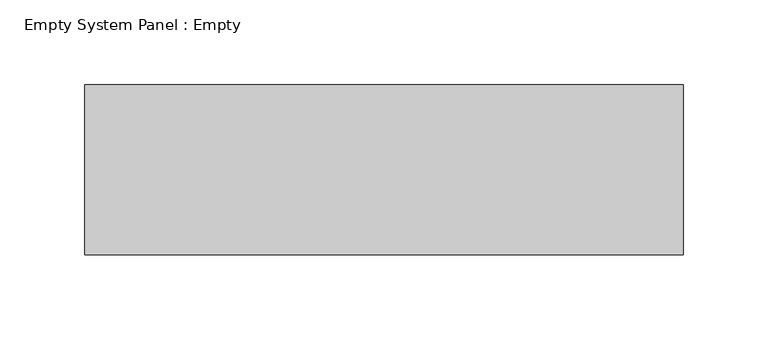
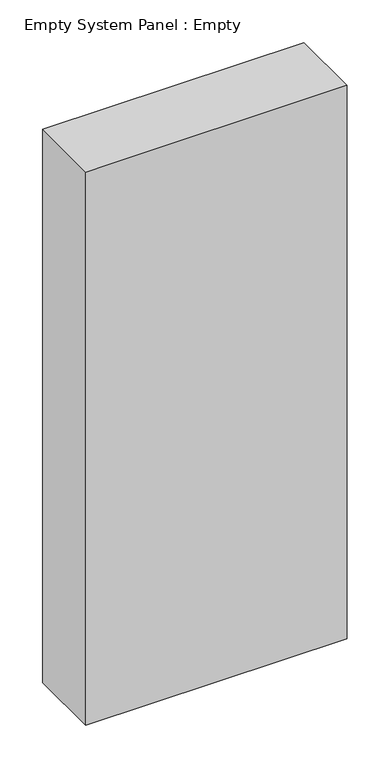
"""IFC4 building model written with IfcOpenShell, lengths in millimetres: plate geometry, Empty System Panel : Empty."""

from ifc_helpers import new_model, si_unit, origin, origin_with_axes, place, context, project, spatial, polyline, outline, extrude, source, transform, mapped, element, save


def empty_system_panel_empty_38a7915e(model_context):
    return source(origin(), model_context, "Body", "SweptSolid", [
        extrude(outline(polyline([(176.25, -50.0), (-176.25, -50.0), (-176.25, 50.0), (176.25, 50.0), (176.25, -50.0)])), origin_with_axes(), (0.0, 0.0, 1.0), 787.95),
    ])


if __name__ == "__main__":
    model = new_model("IFC4")
    model_context = context("Model", 3, world=origin())
    ifc_project = project(units=[si_unit("LENGTHUNIT", "METRE", prefix="MILLI")], contexts=[model_context])
    site = spatial("IfcSite", under=ifc_project)
    building = spatial("IfcBuilding", under=site)
    placement = place(None, origin())
    empty_system_panel_empty_shape = empty_system_panel_empty_38a7915e(model_context)
    element("IfcPlate", 1, ObjectType="Empty System Panel : Empty", at=placement, inside=building, context=model_context, shape_type="MappedRepresentation", body=[
        mapped(empty_system_panel_empty_shape, transform((0.0, 0.0, 0.0), x_axis=(1.0, 0.0, 0.0), y_axis=(0.0, 1.0, 0.0), z_axis=(0.0, 0.0, 1.0))),
    ])
    save(model, "model.ifc")
